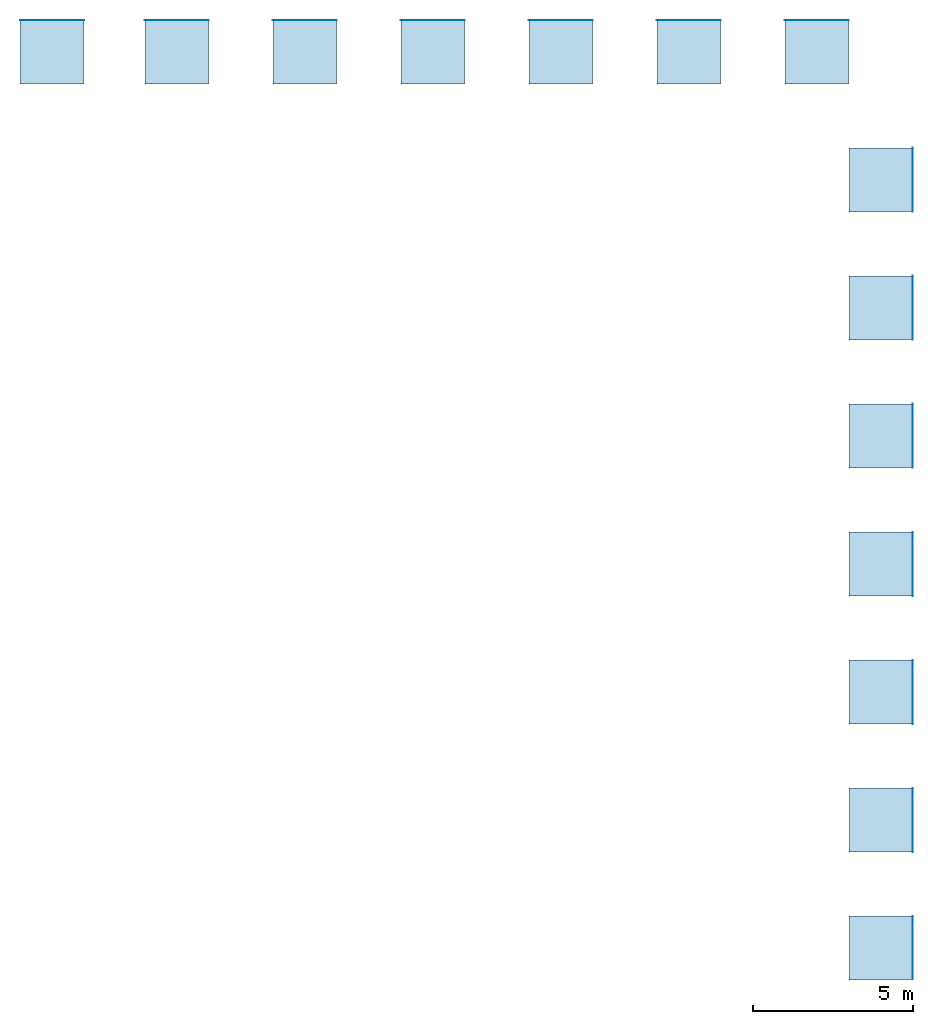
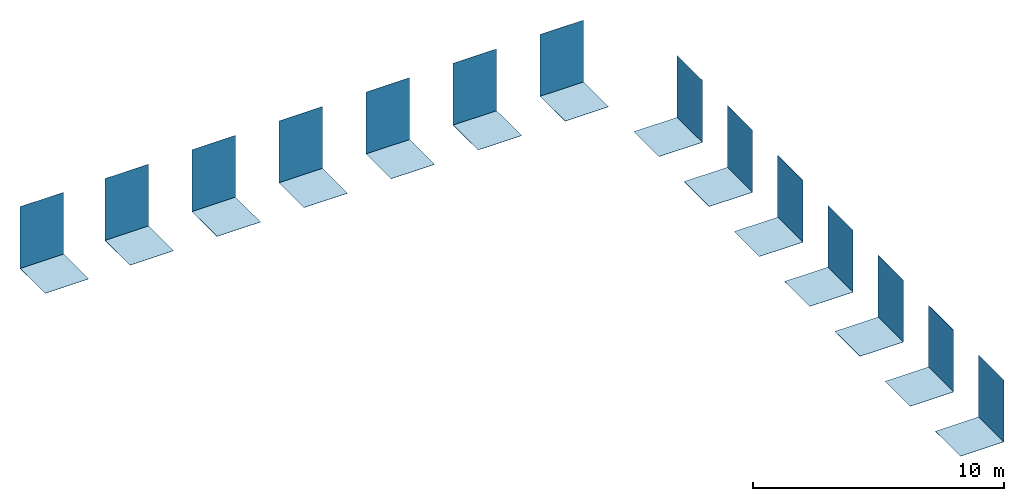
# One storey: 15 walls, 14 slabs.
"""IFC2X3 building model written with IfcOpenShell, lengths in millimetres."""

from ifc_helpers import new_model, entity, si_unit, converted_unit, derived_unit, direction, frame, frame_2d, origin, origin_2d_with_axis, place, context, subcontext, project, spatial, rectangle, extrude, material, layer, layer_set, layer_usage, type_object, element, save


model = new_model("IFC2X3")

# Units and contexts
model_context = context("Model", 3, precision=0.01, world=origin(), true_north=direction((6.12303176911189e-17, 1.0)))
body_context = subcontext(model_context, "Body", "Model", "MODEL_VIEW")
ifc_project = project(units=[si_unit("LENGTHUNIT", "METRE", prefix="MILLI"), si_unit("AREAUNIT", "SQUARE_METRE"), si_unit("VOLUMEUNIT", "CUBIC_METRE"), converted_unit("PLANEANGLEUNIT", "DEGREE", entity("IfcRatioMeasure", 0.0174532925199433), si_unit("PLANEANGLEUNIT", "RADIAN"), dimensions=[0, 0, 0, 0, 0, 0, 0]), si_unit("MASSUNIT", "GRAM", prefix="KILO"), derived_unit("MASSDENSITYUNIT", [(si_unit("MASSUNIT", "GRAM", prefix="KILO"), 1), (si_unit("LENGTHUNIT", "METRE"), -3)]), si_unit("TIMEUNIT", "SECOND"), si_unit("FREQUENCYUNIT", "HERTZ"), si_unit("THERMODYNAMICTEMPERATUREUNIT", "DEGREE_CELSIUS"), derived_unit("THERMALTRANSMITTANCEUNIT", [(si_unit("MASSUNIT", "GRAM", prefix="KILO"), 1), (si_unit("THERMODYNAMICTEMPERATUREUNIT", "KELVIN"), -1), (si_unit("TIMEUNIT", "SECOND"), -3)]), derived_unit("VOLUMETRICFLOWRATEUNIT", [(si_unit("LENGTHUNIT", "METRE"), 3), (si_unit("TIMEUNIT", "SECOND"), -1)]), si_unit("ELECTRICCURRENTUNIT", "AMPERE"), si_unit("ELECTRICVOLTAGEUNIT", "VOLT"), si_unit("POWERUNIT", "WATT"), si_unit("FORCEUNIT", "NEWTON", prefix="KILO"), si_unit("ILLUMINANCEUNIT", "LUX"), si_unit("LUMINOUSFLUXUNIT", "LUMEN"), si_unit("LUMINOUSINTENSITYUNIT", "CANDELA"), derived_unit("USERDEFINED", [(si_unit("MASSUNIT", "GRAM", prefix="KILO"), -1), (si_unit("LENGTHUNIT", "METRE"), -2), (si_unit("TIMEUNIT", "SECOND"), 3), (si_unit("LUMINOUSFLUXUNIT", "LUMEN"), 1)]), derived_unit("LINEARVELOCITYUNIT", [(si_unit("LENGTHUNIT", "METRE"), 1), (si_unit("TIMEUNIT", "SECOND"), -1)]), si_unit("PRESSUREUNIT", "PASCAL"), derived_unit("USERDEFINED", [(si_unit("LENGTHUNIT", "METRE"), -2), (si_unit("MASSUNIT", "GRAM", prefix="KILO"), 1), (si_unit("TIMEUNIT", "SECOND"), -2)])], contexts=[model_context])

# Site, building, storey
site_placement = place(None, origin())
site = spatial("IfcSite", under=ifc_project, at=site_placement, Name="Default", CompositionType="ELEMENT")
building_placement = place(site_placement, origin())
building = spatial("IfcBuilding", under=site, at=building_placement, CompositionType="ELEMENT")
storey_placement = place(building_placement, origin())
storey = spatial("IfcBuildingStorey", under=building, at=storey_placement, Name="Level 1", CompositionType="ELEMENT", Elevation=0.0)

# Slabs
ifc_material_1 = material(Name="PGR_AnticColonial_WoodFibreBoards_Residence_Roble_Decape-193x1380mm-100176288")
ifc_layer_1 = layer(ifc_material_1, 8.0)
ifc_layer_set_1 = layer_set([ifc_layer_1], Name="Floor:PGR_AnticColonial_WoodFibreBoards_Residence_Roble_Decape-193x1380mm-100176288")
ifc_layer_usage_1 = layer_usage(ifc_layer_set_1, "AXIS3", "POSITIVE", 0.0)
slab_1_placement = place(storey_placement, origin())
element("IfcSlab", 1, at=slab_1_placement, inside=storey, material=ifc_layer_usage_1, Name="Floor:PGR_AnticColonial_WoodFibreBoards_Residence_Roble_Decape-193x1380mm-100176288", ObjectType="Floor:PGR_AnticColonial_WoodFibreBoards_Residence_Roble_Decape-193x1380mm-100176288", PredefinedType="FLOOR", context=body_context, shape_type="SweptSolid", body=[
    extrude(rectangle(XDim=2000.0, YDim=2000.0, at=frame_2d((2.8421709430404e-13, 1.13686837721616e-13), x_axis=(1.0, 0.0))), frame((2527.07742659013, -3501.98267476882, 0.0), z_axis=(0.0, 0.0, -1.0), x_axis=(0.0, 1.0, 0.0)), (0.0, 0.0, 1.0), 8.0),
])
ifc_material_2 = material(Name="PGR_AnticColonial_WoodFibreBoards_Residence_Arizona-193x1380mm-100201388")
ifc_layer_2 = layer(ifc_material_2, 8.0)
ifc_layer_set_2 = layer_set([ifc_layer_2], Name="Floor:PGR_AnticColonial_WoodFibreBoards_Residence_Arizona-193x1380mm-100201388")
ifc_layer_usage_2 = layer_usage(ifc_layer_set_2, "AXIS3", "POSITIVE", 0.0)
slab_2_placement = place(storey_placement, origin())
element("IfcSlab", 2, at=slab_2_placement, inside=storey, material=ifc_layer_usage_2, Name="Floor:PGR_AnticColonial_WoodFibreBoards_Residence_Arizona-193x1380mm-100201388", ObjectType="Floor:PGR_AnticColonial_WoodFibreBoards_Residence_Arizona-193x1380mm-100201388", PredefinedType="FLOOR", context=body_context, shape_type="SweptSolid", body=[
    extrude(rectangle(XDim=2000.0, YDim=2000.0, at=frame_2d((-1.13686837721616e-13, 1.13686837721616e-13), x_axis=(1.0, 0.0))), frame((2527.07742659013, 498.017325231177, 0.0), z_axis=(0.0, 0.0, -1.0), x_axis=(0.0, 1.0, 0.0)), (0.0, 0.0, 1.0), 8.0),
])
ifc_material_3 = material(Name="PGR_AnticColonial_WoodFibreBoards_Residence_Idaho-193x1380mm-100201389")
ifc_layer_3 = layer(ifc_material_3, 8.0)
ifc_layer_set_3 = layer_set([ifc_layer_3], Name="Floor:PGR_AnticColonial_WoodFibreBoards_Residence_Idaho-193x1380mm-100201389")
ifc_layer_usage_3 = layer_usage(ifc_layer_set_3, "AXIS3", "POSITIVE", 0.0)
slab_3_placement = place(storey_placement, origin())
element("IfcSlab", 3, at=slab_3_placement, inside=storey, material=ifc_layer_usage_3, Name="Floor:PGR_AnticColonial_WoodFibreBoards_Residence_Idaho-193x1380mm-100201389", ObjectType="Floor:PGR_AnticColonial_WoodFibreBoards_Residence_Idaho-193x1380mm-100201389", PredefinedType="FLOOR", context=body_context, shape_type="SweptSolid", body=[
    extrude(rectangle(XDim=2000.0, YDim=2000.0, at=frame_2d((-2.8421709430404e-13, 1.13686837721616e-13), x_axis=(1.0, 0.0))), frame((2527.07742659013, 4498.01732523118, 0.0), z_axis=(0.0, 0.0, -1.0), x_axis=(0.0, 1.0, 0.0)), (0.0, 0.0, 1.0), 8.0),
])
ifc_material_4 = material(Name="PGR_AnticColonial_WoodFibreBoards_Residence_Misuri-193x1380mm-100201397")
ifc_layer_4 = layer(ifc_material_4, 8.0)
ifc_layer_set_4 = layer_set([ifc_layer_4], Name="Floor:PGR_AnticColonial_WoodFibreBoards_Residence_Misuri-193x1380mm-100201397")
ifc_layer_usage_4 = layer_usage(ifc_layer_set_4, "AXIS3", "POSITIVE", 0.0)
slab_4_placement = place(storey_placement, origin())
element("IfcSlab", 4, at=slab_4_placement, inside=storey, material=ifc_layer_usage_4, Name="Floor:PGR_AnticColonial_WoodFibreBoards_Residence_Misuri-193x1380mm-100201397", ObjectType="Floor:PGR_AnticColonial_WoodFibreBoards_Residence_Misuri-193x1380mm-100201397", PredefinedType="FLOOR", context=body_context, shape_type="SweptSolid", body=[
    extrude(rectangle(XDim=2000.0, YDim=2000.0, at=frame_2d((5.6843418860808e-13, 1.13686837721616e-13), x_axis=(1.0, 0.0))), frame((2527.07742659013, 8498.01732523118, 0.0), z_axis=(0.0, 0.0, -1.0), x_axis=(0.0, 1.0, 0.0)), (0.0, 0.0, 1.0), 8.0),
])
ifc_material_5 = material(Name="PGR_AnticColonial_WoodFibreBoards_Residence_Nogal-193x1380mm-100202966")
ifc_layer_5 = layer(ifc_material_5, 8.0)
ifc_layer_set_5 = layer_set([ifc_layer_5], Name="Floor:PGR_AnticColonial_WoodFibreBoards_Residence_Nogal-193x1380mm-100202966")
ifc_layer_usage_5 = layer_usage(ifc_layer_set_5, "AXIS3", "POSITIVE", 0.0)
slab_5_placement = place(storey_placement, origin())
element("IfcSlab", 5, at=slab_5_placement, inside=storey, material=ifc_layer_usage_5, Name="Floor:PGR_AnticColonial_WoodFibreBoards_Residence_Nogal-193x1380mm-100202966", ObjectType="Floor:PGR_AnticColonial_WoodFibreBoards_Residence_Nogal-193x1380mm-100202966", PredefinedType="FLOOR", context=body_context, shape_type="SweptSolid", body=[
    extrude(rectangle(XDim=2000.0, YDim=2000.0, at=frame_2d((0.0, 1.13686837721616e-13), x_axis=(1.0, 0.0))), frame((2527.07742659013, 12498.0173252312, 0.0), z_axis=(0.0, 0.0, -1.0), x_axis=(0.0, 1.0, 0.0)), (0.0, 0.0, 1.0), 8.0),
])
ifc_material_6 = material(Name="PGR_AnticColonial_WoodFibreBoards_Residence_Utah-193x1380mm-100201410")
ifc_layer_6 = layer(ifc_material_6, 8.0)
ifc_layer_set_6 = layer_set([ifc_layer_6], Name="Floor:PGR_AnticColonial_WoodFibreBoards_Residence_Utah-193x1380mm-100201410")
ifc_layer_usage_6 = layer_usage(ifc_layer_set_6, "AXIS3", "POSITIVE", 0.0)
slab_6_placement = place(storey_placement, origin())
element("IfcSlab", 6, at=slab_6_placement, inside=storey, material=ifc_layer_usage_6, Name="Floor:PGR_AnticColonial_WoodFibreBoards_Residence_Utah-193x1380mm-100201410", ObjectType="Floor:PGR_AnticColonial_WoodFibreBoards_Residence_Utah-193x1380mm-100201410", PredefinedType="FLOOR", context=body_context, shape_type="SweptSolid", body=[
    extrude(rectangle(XDim=2000.0, YDim=2000.0, at=frame_2d((0.0, 1.13686837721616e-13), x_axis=(1.0, 0.0))), frame((2527.07742659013, 16498.0173252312, 0.0), z_axis=(0.0, 0.0, -1.0), x_axis=(0.0, 1.0, 0.0)), (0.0, 0.0, 1.0), 8.0),
])
ifc_material_7 = material(Name="PGR_AnticColonial_WoodFibreBoards_Residence_New_Jersey-193x1380mm-100176290")
ifc_layer_7 = layer(ifc_material_7, 8.0)
ifc_layer_set_7 = layer_set([ifc_layer_7], Name="Floor:PGR_AnticColonial_WoodFibreBoards_Residence_New_Jersey-193x1380mm-100176290")
ifc_layer_usage_7 = layer_usage(ifc_layer_set_7, "AXIS3", "POSITIVE", 0.0)
slab_7_placement = place(storey_placement, origin())
element("IfcSlab", 7, at=slab_7_placement, inside=storey, material=ifc_layer_usage_7, Name="Floor:PGR_AnticColonial_WoodFibreBoards_Residence_New_Jersey-193x1380mm-100176290", ObjectType="Floor:PGR_AnticColonial_WoodFibreBoards_Residence_New_Jersey-193x1380mm-100176290", PredefinedType="FLOOR", context=body_context, shape_type="SweptSolid", body=[
    extrude(rectangle(XDim=2000.0, YDim=2000.0, at=frame_2d((-1.08002495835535e-12, 1.13686837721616e-13), x_axis=(1.0, 0.0))), frame((2527.07742659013, 20498.0173252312, 0.0), z_axis=(0.0, 0.0, -1.0), x_axis=(0.0, 1.0, 0.0)), (0.0, 0.0, 1.0), 8.0),
])
ifc_material_8 = material(Name="PGR_AnticColonial_WoodFibreBoards_Residence_Iowa-193x1380mm-100176300")
ifc_layer_8 = layer(ifc_material_8, 8.0)
ifc_layer_set_8 = layer_set([ifc_layer_8], Name="Floor:PGR_AnticColonial_WoodFibreBoards_Residence_Iowa-193x1380mm-100176300")
ifc_layer_usage_8 = layer_usage(ifc_layer_set_8, "AXIS3", "POSITIVE", 0.0)
slab_8_placement = place(storey_placement, origin())
element("IfcSlab", 8, at=slab_8_placement, inside=storey, material=ifc_layer_usage_8, Name="Floor:PGR_AnticColonial_WoodFibreBoards_Residence_Iowa-193x1380mm-100176300", ObjectType="Floor:PGR_AnticColonial_WoodFibreBoards_Residence_Iowa-193x1380mm-100176300", PredefinedType="FLOOR", context=body_context, shape_type="SweptSolid", body=[
    extrude(rectangle(XDim=2000.0, YDim=2000.00000000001, at=frame_2d((-2.1600499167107e-12, 0.0), x_axis=(1.0, 0.0))), frame((527.077426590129, 24498.0173252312, 0.0), z_axis=(0.0, 0.0, -1.0), x_axis=(0.0, 1.0, 0.0)), (0.0, 0.0, 1.0), 8.0),
])
ifc_material_9 = material(Name="PGR_AnticColonial_WoodFibreBoards_Residence_Roble-193x1380mm-100176291")
ifc_layer_9 = layer(ifc_material_9, 8.0)
ifc_layer_set_9 = layer_set([ifc_layer_9], Name="Floor:PGR_AnticColonial_WoodFibreBoards_Residence_Roble-193x1380mm-100176291")
ifc_layer_usage_9 = layer_usage(ifc_layer_set_9, "AXIS3", "POSITIVE", 0.0)
slab_9_placement = place(storey_placement, origin())
element("IfcSlab", 9, at=slab_9_placement, inside=storey, material=ifc_layer_usage_9, Name="Floor:PGR_AnticColonial_WoodFibreBoards_Residence_Roble-193x1380mm-100176291", ObjectType="Floor:PGR_AnticColonial_WoodFibreBoards_Residence_Roble-193x1380mm-100176291", PredefinedType="FLOOR", context=body_context, shape_type="SweptSolid", body=[
    extrude(rectangle(XDim=2000.0, YDim=2000.00000000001, at=frame_2d((-2.1600499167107e-12, 0.0), x_axis=(1.0, 0.0))), frame((-3472.92257340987, 24498.0173252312, 0.0), z_axis=(0.0, 0.0, -1.0), x_axis=(0.0, 1.0, 0.0)), (0.0, 0.0, 1.0), 8.0),
])
ifc_material_10 = material(Name="PGR_AnticColonial_WoodFibreBoards_Residence_Vermont-193x1380mm-100176289")
ifc_layer_10 = layer(ifc_material_10, 8.0)
ifc_layer_set_10 = layer_set([ifc_layer_10], Name="Floor:PGR_AnticColonial_WoodFibreBoards_Residence_Vermont-193x1380mm-100176289")
ifc_layer_usage_10 = layer_usage(ifc_layer_set_10, "AXIS3", "POSITIVE", 0.0)
slab_10_placement = place(storey_placement, origin())
element("IfcSlab", 10, at=slab_10_placement, inside=storey, material=ifc_layer_usage_10, Name="Floor:PGR_AnticColonial_WoodFibreBoards_Residence_Vermont-193x1380mm-100176289", ObjectType="Floor:PGR_AnticColonial_WoodFibreBoards_Residence_Vermont-193x1380mm-100176289", PredefinedType="FLOOR", context=body_context, shape_type="SweptSolid", body=[
    extrude(rectangle(XDim=2000.0, YDim=2000.00000000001, at=frame_2d((-2.1600499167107e-12, 0.0), x_axis=(1.0, 0.0))), frame((-7472.92257340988, 24498.0173252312, 0.0), z_axis=(0.0, 0.0, -1.0), x_axis=(0.0, 1.0, 0.0)), (0.0, 0.0, 1.0), 8.0),
])
ifc_material_11 = material(Name="PGR_AnticColonial_WoodFibreBoards_Residence_Virginia-193x1380mm-100175398")
ifc_layer_11 = layer(ifc_material_11, 8.0)
ifc_layer_set_11 = layer_set([ifc_layer_11], Name="Floor:PGR_AnticColonial_WoodFibreBoards_Residence_Virginia-193x1380mm-100175398")
ifc_layer_usage_11 = layer_usage(ifc_layer_set_11, "AXIS3", "POSITIVE", 0.0)
slab_11_placement = place(storey_placement, origin())
element("IfcSlab", 11, at=slab_11_placement, inside=storey, material=ifc_layer_usage_11, Name="Floor:PGR_AnticColonial_WoodFibreBoards_Residence_Virginia-193x1380mm-100175398", ObjectType="Floor:PGR_AnticColonial_WoodFibreBoards_Residence_Virginia-193x1380mm-100175398", PredefinedType="FLOOR", context=body_context, shape_type="SweptSolid", body=[
    extrude(rectangle(XDim=2000.0, YDim=2000.00000000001, at=origin_2d_with_axis()), frame((-11472.9225734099, 24498.0173252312, 0.0), z_axis=(0.0, 0.0, -1.0), x_axis=(0.0, 1.0, 0.0)), (0.0, 0.0, 1.0), 8.0),
])
ifc_material_12 = material(Name="PGR_AnticColonial_WoodFibreBoards_Residence_Ohio-193x1380mm-100175399")
ifc_layer_12 = layer(ifc_material_12, 8.0)
ifc_layer_set_12 = layer_set([ifc_layer_12], Name="Floor:PGR_AnticColonial_WoodFibreBoards_Residence_Ohio-193x1380mm-100175399")
ifc_layer_usage_12 = layer_usage(ifc_layer_set_12, "AXIS3", "POSITIVE", 0.0)
slab_12_placement = place(storey_placement, origin())
element("IfcSlab", 12, at=slab_12_placement, inside=storey, material=ifc_layer_usage_12, Name="Floor:PGR_AnticColonial_WoodFibreBoards_Residence_Ohio-193x1380mm-100175399", ObjectType="Floor:PGR_AnticColonial_WoodFibreBoards_Residence_Ohio-193x1380mm-100175399", PredefinedType="FLOOR", context=body_context, shape_type="SweptSolid", body=[
    extrude(rectangle(XDim=2000.0, YDim=2000.00000000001, at=frame_2d((2.1600499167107e-12, 0.0), x_axis=(1.0, 0.0))), frame((-15472.9225734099, 24498.0173252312, 0.0), z_axis=(0.0, 0.0, -1.0), x_axis=(0.0, 1.0, 0.0)), (0.0, 0.0, 1.0), 8.0),
])
ifc_material_13 = material(Name="PGR_AnticColonial_WoodFibreBoards_Residence_Nevada-193x1380mm-100201404")
ifc_layer_13 = layer(ifc_material_13, 8.0)
ifc_layer_set_13 = layer_set([ifc_layer_13], Name="Floor:PGR_AnticColonial_WoodFibreBoards_Residence_Nevada-193x1380mm-100201404")
ifc_layer_usage_13 = layer_usage(ifc_layer_set_13, "AXIS3", "POSITIVE", 0.0)
slab_13_placement = place(storey_placement, origin())
element("IfcSlab", 13, at=slab_13_placement, inside=storey, material=ifc_layer_usage_13, Name="Floor:PGR_AnticColonial_WoodFibreBoards_Residence_Nevada-193x1380mm-100201404", ObjectType="Floor:PGR_AnticColonial_WoodFibreBoards_Residence_Nevada-193x1380mm-100201404", PredefinedType="FLOOR", context=body_context, shape_type="SweptSolid", body=[
    extrude(rectangle(XDim=2000.0, YDim=2000.00000000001, at=frame_2d((2.1600499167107e-12, 0.0), x_axis=(1.0, 0.0))), frame((-19472.9225734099, 24498.0173252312, 0.0), z_axis=(0.0, 0.0, -1.0), x_axis=(0.0, 1.0, 0.0)), (0.0, 0.0, 1.0), 8.0),
])
ifc_material_14 = material(Name="PGR_AnticColonial_WoodFibreBoards_Residence_Maine-193x1380mm-100176301")
ifc_layer_14 = layer(ifc_material_14, 8.0)
ifc_layer_set_14 = layer_set([ifc_layer_14], Name="Floor:PGR_AnticColonial_WoodFibreBoards_Residence_Maine-193x1380mm-100176301")
ifc_layer_usage_14 = layer_usage(ifc_layer_set_14, "AXIS3", "POSITIVE", 0.0)
slab_14_placement = place(storey_placement, origin())
element("IfcSlab", 14, at=slab_14_placement, inside=storey, material=ifc_layer_usage_14, Name="Floor:PGR_AnticColonial_WoodFibreBoards_Residence_Maine-193x1380mm-100176301", ObjectType="Floor:PGR_AnticColonial_WoodFibreBoards_Residence_Maine-193x1380mm-100176301", PredefinedType="FLOOR", context=body_context, shape_type="SweptSolid", body=[
    extrude(rectangle(XDim=2000.0, YDim=2000.00000000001, at=frame_2d((2.1600499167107e-12, -2.1600499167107e-12), x_axis=(1.0, 0.0))), frame((-23372.9225734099, 24498.0173252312, 0.0), z_axis=(0.0, 0.0, -1.0), x_axis=(0.0, 1.0, 0.0)), (0.0, 0.0, 1.0), 8.0),
])

# Walls
ifc_layer_15 = layer(ifc_material_1, 8.0)
ifc_layer_set_15 = layer_set([ifc_layer_15], Name="Basic Wall:PGR_AnticColonial_WoodFibreBoards_Residence_Roble_Decape-193x1380mm-100176288")
ifc_layer_usage_15 = layer_usage(ifc_layer_set_15, "AXIS2", "POSITIVE", -4.0)
wall_type_1 = type_object("IfcWallType", Name="Basic Wall:PGR_AnticColonial_WoodFibreBoards_Residence_Roble_Decape-193x1380mm-100176288", PredefinedType="STANDARD", material=ifc_layer_set_15)
wall_1_placement = place(storey_placement, frame((3523.07742659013, -2501.98267476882, 0.0), z_axis=(0.0, 0.0, 1.0), x_axis=(0.0, -1.0, 0.0)))
element("IfcWallStandardCase", 15, at=wall_1_placement, inside=storey, type_object=wall_type_1, material=ifc_layer_usage_15, Name="Basic Wall:PGR_AnticColonial_WoodFibreBoards_Residence_Roble_Decape-193x1380mm-100176288", ObjectType="Basic Wall:PGR_AnticColonial_WoodFibreBoards_Residence_Roble_Decape-193x1380mm-100176288", context=body_context, shape_type="SweptSolid", body=[
    extrude(rectangle(XDim=2000.0, YDim=8.00000000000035, at=frame_2d((1000.0, 7.99360577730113e-15), x_axis=(-1.0, 0.0))), origin(), (0.0, 0.0, 1.0), 3000.00000000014),
])
ifc_layer_16 = layer(ifc_material_2, 8.0)
ifc_layer_set_16 = layer_set([ifc_layer_16], Name="Basic Wall:PGR_AnticColonial_WoodFibreBoards_Residence_Arizona-193x1380mm-100201388")
ifc_layer_usage_16 = layer_usage(ifc_layer_set_16, "AXIS2", "POSITIVE", -4.0)
wall_type_2 = type_object("IfcWallType", Name="Basic Wall:PGR_AnticColonial_WoodFibreBoards_Residence_Arizona-193x1380mm-100201388", PredefinedType="STANDARD", material=ifc_layer_set_16)
wall_2_placement = place(storey_placement, frame((3523.07742659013, 1498.01732523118, 0.0), z_axis=(0.0, 0.0, 1.0), x_axis=(0.0, -1.0, 0.0)))
element("IfcWallStandardCase", 16, at=wall_2_placement, inside=storey, type_object=wall_type_2, material=ifc_layer_usage_16, Name="Basic Wall:PGR_AnticColonial_WoodFibreBoards_Residence_Arizona-193x1380mm-100201388", ObjectType="Basic Wall:PGR_AnticColonial_WoodFibreBoards_Residence_Arizona-193x1380mm-100201388", context=body_context, shape_type="SweptSolid", body=[
    extrude(rectangle(XDim=2000.0, YDim=8.00000000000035, at=frame_2d((1000.0, 7.99360577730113e-15), x_axis=(-1.0, 0.0))), origin(), (0.0, 0.0, 1.0), 3000.00000000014),
])
ifc_layer_17 = layer(ifc_material_3, 8.0)
ifc_layer_set_17 = layer_set([ifc_layer_17], Name="Basic Wall:PGR_AnticColonial_WoodFibreBoards_Residence_Idaho-193x1380mm-100201389")
ifc_layer_usage_17 = layer_usage(ifc_layer_set_17, "AXIS2", "POSITIVE", -4.0)
wall_type_3 = type_object("IfcWallType", Name="Basic Wall:PGR_AnticColonial_WoodFibreBoards_Residence_Idaho-193x1380mm-100201389", PredefinedType="STANDARD", material=ifc_layer_set_17)
wall_3_placement = place(storey_placement, frame((3523.07742659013, 5498.01732523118, 0.0), z_axis=(0.0, 0.0, 1.0), x_axis=(0.0, -1.0, 0.0)))
element("IfcWallStandardCase", 17, at=wall_3_placement, inside=storey, type_object=wall_type_3, material=ifc_layer_usage_17, Name="Basic Wall:PGR_AnticColonial_WoodFibreBoards_Residence_Idaho-193x1380mm-100201389", ObjectType="Basic Wall:PGR_AnticColonial_WoodFibreBoards_Residence_Idaho-193x1380mm-100201389", context=body_context, shape_type="SweptSolid", body=[
    extrude(rectangle(XDim=2000.0, YDim=8.00000000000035, at=frame_2d((1000.0, 7.99360577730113e-15), x_axis=(-1.0, 0.0))), origin(), (0.0, 0.0, 1.0), 3000.00000000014),
])
ifc_layer_18 = layer(ifc_material_4, 8.0)
ifc_layer_set_18 = layer_set([ifc_layer_18], Name="Basic Wall:PGR_AnticColonial_WoodFibreBoards_Residence_Misuri-193x1380mm-100201397")
ifc_layer_usage_18 = layer_usage(ifc_layer_set_18, "AXIS2", "POSITIVE", -4.0)
wall_type_4 = type_object("IfcWallType", Name="Basic Wall:PGR_AnticColonial_WoodFibreBoards_Residence_Misuri-193x1380mm-100201397", PredefinedType="STANDARD", material=ifc_layer_set_18)
wall_4_placement = place(storey_placement, frame((3523.07742659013, 9498.01732523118, 0.0), z_axis=(0.0, 0.0, 1.0), x_axis=(0.0, -1.0, 0.0)))
element("IfcWallStandardCase", 18, at=wall_4_placement, inside=storey, type_object=wall_type_4, material=ifc_layer_usage_18, Name="Basic Wall:PGR_AnticColonial_WoodFibreBoards_Residence_Misuri-193x1380mm-100201397", ObjectType="Basic Wall:PGR_AnticColonial_WoodFibreBoards_Residence_Misuri-193x1380mm-100201397", context=body_context, shape_type="SweptSolid", body=[
    extrude(rectangle(XDim=2000.0, YDim=8.00000000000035, at=frame_2d((1000.0, 7.99360577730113e-15), x_axis=(-1.0, 0.0))), origin(), (0.0, 0.0, 1.0), 3000.00000000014),
])
ifc_layer_usage_19 = layer_usage(ifc_layer_set_18, "AXIS2", "POSITIVE", -4.0)
wall_5_placement = place(storey_placement, frame((3523.07742659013, 9498.01732523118, 0.0), z_axis=(0.0, 0.0, 1.0), x_axis=(0.0, -1.0, 0.0)))
element("IfcWallStandardCase", 19, at=wall_5_placement, inside=storey, type_object=wall_type_4, material=ifc_layer_usage_19, Name="Basic Wall:PGR_AnticColonial_WoodFibreBoards_Residence_Misuri-193x1380mm-100201397", ObjectType="Basic Wall:PGR_AnticColonial_WoodFibreBoards_Residence_Misuri-193x1380mm-100201397", context=body_context, shape_type="SweptSolid", body=[
    extrude(rectangle(XDim=2000.0, YDim=8.00000000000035, at=frame_2d((1000.0, 7.99360577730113e-15), x_axis=(-1.0, 0.0))), origin(), (0.0, 0.0, 1.0), 3000.00000000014),
])
ifc_layer_19 = layer(ifc_material_5, 8.0)
ifc_layer_set_19 = layer_set([ifc_layer_19], Name="Basic Wall:PGR_AnticColonial_WoodFibreBoards_Residence_Nogal-193x1380mm-100202966")
ifc_layer_usage_20 = layer_usage(ifc_layer_set_19, "AXIS2", "POSITIVE", -4.0)
wall_type_5 = type_object("IfcWallType", Name="Basic Wall:PGR_AnticColonial_WoodFibreBoards_Residence_Nogal-193x1380mm-100202966", PredefinedType="STANDARD", material=ifc_layer_set_19)
wall_6_placement = place(storey_placement, frame((3523.07742659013, 13498.0173252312, 0.0), z_axis=(0.0, 0.0, 1.0), x_axis=(0.0, -1.0, 0.0)))
element("IfcWallStandardCase", 20, at=wall_6_placement, inside=storey, type_object=wall_type_5, material=ifc_layer_usage_20, Name="Basic Wall:PGR_AnticColonial_WoodFibreBoards_Residence_Nogal-193x1380mm-100202966", ObjectType="Basic Wall:PGR_AnticColonial_WoodFibreBoards_Residence_Nogal-193x1380mm-100202966", context=body_context, shape_type="SweptSolid", body=[
    extrude(rectangle(XDim=2000.0, YDim=8.00000000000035, at=frame_2d((1000.0, 7.99360577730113e-15), x_axis=(-1.0, 0.0))), origin(), (0.0, 0.0, 1.0), 3000.00000000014),
])
ifc_layer_20 = layer(ifc_material_6, 8.0)
ifc_layer_set_20 = layer_set([ifc_layer_20], Name="Basic Wall:PGR_AnticColonial_WoodFibreBoards_Residence_Utah-193x1380mm-100201410")
ifc_layer_usage_21 = layer_usage(ifc_layer_set_20, "AXIS2", "POSITIVE", -4.0)
wall_type_6 = type_object("IfcWallType", Name="Basic Wall:PGR_AnticColonial_WoodFibreBoards_Residence_Utah-193x1380mm-100201410", PredefinedType="STANDARD", material=ifc_layer_set_20)
wall_7_placement = place(storey_placement, frame((3523.07742659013, 17498.0173252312, 0.0), z_axis=(0.0, 0.0, 1.0), x_axis=(0.0, -1.0, 0.0)))
element("IfcWallStandardCase", 21, at=wall_7_placement, inside=storey, type_object=wall_type_6, material=ifc_layer_usage_21, Name="Basic Wall:PGR_AnticColonial_WoodFibreBoards_Residence_Utah-193x1380mm-100201410", ObjectType="Basic Wall:PGR_AnticColonial_WoodFibreBoards_Residence_Utah-193x1380mm-100201410", context=body_context, shape_type="SweptSolid", body=[
    extrude(rectangle(XDim=2000.0, YDim=8.00000000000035, at=frame_2d((1000.0, 7.99360577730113e-15), x_axis=(-1.0, 0.0))), origin(), (0.0, 0.0, 1.0), 3000.00000000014),
])
ifc_layer_21 = layer(ifc_material_7, 8.0)
ifc_layer_set_21 = layer_set([ifc_layer_21], Name="Basic Wall:PGR_AnticColonial_WoodFibreBoards_Residence_New_Jersey-193x1380mm-100176290")
ifc_layer_usage_22 = layer_usage(ifc_layer_set_21, "AXIS2", "POSITIVE", -4.0)
wall_type_7 = type_object("IfcWallType", Name="Basic Wall:PGR_AnticColonial_WoodFibreBoards_Residence_New_Jersey-193x1380mm-100176290", PredefinedType="STANDARD", material=ifc_layer_set_21)
wall_8_placement = place(storey_placement, frame((3523.07742659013, 21498.0173252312, 0.0), z_axis=(0.0, 0.0, 1.0), x_axis=(0.0, -1.0, 0.0)))
element("IfcWallStandardCase", 22, at=wall_8_placement, inside=storey, type_object=wall_type_7, material=ifc_layer_usage_22, Name="Basic Wall:PGR_AnticColonial_WoodFibreBoards_Residence_New_Jersey-193x1380mm-100176290", ObjectType="Basic Wall:PGR_AnticColonial_WoodFibreBoards_Residence_New_Jersey-193x1380mm-100176290", context=body_context, shape_type="SweptSolid", body=[
    extrude(rectangle(XDim=2000.0, YDim=8.00000000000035, at=frame_2d((1000.0, 7.99360577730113e-15), x_axis=(-1.0, 0.0))), origin(), (0.0, 0.0, 1.0), 3000.00000000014),
])
ifc_layer_22 = layer(ifc_material_8, 8.0)
ifc_layer_set_22 = layer_set([ifc_layer_22], Name="Basic Wall:PGR_AnticColonial_WoodFibreBoards_Residence_Iowa-193x1380mm-100176300")
ifc_layer_usage_23 = layer_usage(ifc_layer_set_22, "AXIS2", "POSITIVE", -4.0)
wall_type_8 = type_object("IfcWallType", Name="Basic Wall:PGR_AnticColonial_WoodFibreBoards_Residence_Iowa-193x1380mm-100176300", PredefinedType="STANDARD", material=ifc_layer_set_22)
wall_9_placement = place(storey_placement, frame((-472.922573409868, 25494.0173252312, 0.0)))
element("IfcWallStandardCase", 23, at=wall_9_placement, inside=storey, type_object=wall_type_8, material=ifc_layer_usage_23, Name="Basic Wall:PGR_AnticColonial_WoodFibreBoards_Residence_Iowa-193x1380mm-100176300", ObjectType="Basic Wall:PGR_AnticColonial_WoodFibreBoards_Residence_Iowa-193x1380mm-100176300", context=body_context, shape_type="SweptSolid", body=[
    extrude(rectangle(XDim=2000.0, YDim=7.99999999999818, at=frame_2d((1000.0, 1.0831335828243e-12), x_axis=(-1.0, 0.0))), origin(), (0.0, 0.0, 1.0), 3000.00000000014),
])
ifc_layer_23 = layer(ifc_material_9, 8.0)
ifc_layer_set_23 = layer_set([ifc_layer_23], Name="Basic Wall:PGR_AnticColonial_WoodFibreBoards_Residence_Roble-193x1380mm-100176291")
ifc_layer_usage_24 = layer_usage(ifc_layer_set_23, "AXIS2", "POSITIVE", -4.0)
wall_type_9 = type_object("IfcWallType", Name="Basic Wall:PGR_AnticColonial_WoodFibreBoards_Residence_Roble-193x1380mm-100176291", PredefinedType="STANDARD", material=ifc_layer_set_23)
wall_10_placement = place(storey_placement, frame((-4472.92257340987, 25494.0173252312, 0.0)))
element("IfcWallStandardCase", 24, at=wall_10_placement, inside=storey, type_object=wall_type_9, material=ifc_layer_usage_24, Name="Basic Wall:PGR_AnticColonial_WoodFibreBoards_Residence_Roble-193x1380mm-100176291", ObjectType="Basic Wall:PGR_AnticColonial_WoodFibreBoards_Residence_Roble-193x1380mm-100176291", context=body_context, shape_type="SweptSolid", body=[
    extrude(rectangle(XDim=2000.0, YDim=7.99999999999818, at=frame_2d((1000.0, 1.0831335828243e-12), x_axis=(-1.0, 0.0))), origin(), (0.0, 0.0, 1.0), 3000.00000000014),
])
ifc_layer_24 = layer(ifc_material_10, 8.0)
ifc_layer_set_24 = layer_set([ifc_layer_24], Name="Basic Wall:PGR_AnticColonial_WoodFibreBoards_Residence_Vermont-193x1380mm-100176289")
ifc_layer_usage_25 = layer_usage(ifc_layer_set_24, "AXIS2", "POSITIVE", -4.0)
wall_type_10 = type_object("IfcWallType", Name="Basic Wall:PGR_AnticColonial_WoodFibreBoards_Residence_Vermont-193x1380mm-100176289", PredefinedType="STANDARD", material=ifc_layer_set_24)
wall_11_placement = place(storey_placement, frame((-8472.92257340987, 25494.0173252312, 0.0)))
element("IfcWallStandardCase", 25, at=wall_11_placement, inside=storey, type_object=wall_type_10, material=ifc_layer_usage_25, Name="Basic Wall:PGR_AnticColonial_WoodFibreBoards_Residence_Vermont-193x1380mm-100176289", ObjectType="Basic Wall:PGR_AnticColonial_WoodFibreBoards_Residence_Vermont-193x1380mm-100176289", context=body_context, shape_type="SweptSolid", body=[
    extrude(rectangle(XDim=2000.0, YDim=7.99999999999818, at=frame_2d((1000.0, 1.0831335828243e-12), x_axis=(-1.0, 0.0))), origin(), (0.0, 0.0, 1.0), 3000.00000000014),
])
ifc_layer_25 = layer(ifc_material_11, 8.0)
ifc_layer_set_25 = layer_set([ifc_layer_25], Name="Basic Wall:PGR_AnticColonial_WoodFibreBoards_Residence_Virginia-193x1380mm-100175398")
ifc_layer_usage_26 = layer_usage(ifc_layer_set_25, "AXIS2", "POSITIVE", -4.0)
wall_type_11 = type_object("IfcWallType", Name="Basic Wall:PGR_AnticColonial_WoodFibreBoards_Residence_Virginia-193x1380mm-100175398", PredefinedType="STANDARD", material=ifc_layer_set_25)
wall_12_placement = place(storey_placement, frame((-12472.9225734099, 25494.0173252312, 0.0)))
element("IfcWallStandardCase", 26, at=wall_12_placement, inside=storey, type_object=wall_type_11, material=ifc_layer_usage_26, Name="Basic Wall:PGR_AnticColonial_WoodFibreBoards_Residence_Virginia-193x1380mm-100175398", ObjectType="Basic Wall:PGR_AnticColonial_WoodFibreBoards_Residence_Virginia-193x1380mm-100175398", context=body_context, shape_type="SweptSolid", body=[
    extrude(rectangle(XDim=2000.0, YDim=7.99999999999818, at=frame_2d((1000.0, 1.0831335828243e-12), x_axis=(-1.0, 0.0))), origin(), (0.0, 0.0, 1.0), 3000.00000000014),
])
ifc_layer_26 = layer(ifc_material_12, 8.0)
ifc_layer_set_26 = layer_set([ifc_layer_26], Name="Basic Wall:PGR_AnticColonial_WoodFibreBoards_Residence_Ohio-193x1380mm-100175399")
ifc_layer_usage_27 = layer_usage(ifc_layer_set_26, "AXIS2", "POSITIVE", -4.0)
wall_type_12 = type_object("IfcWallType", Name="Basic Wall:PGR_AnticColonial_WoodFibreBoards_Residence_Ohio-193x1380mm-100175399", PredefinedType="STANDARD", material=ifc_layer_set_26)
wall_13_placement = place(storey_placement, frame((-16472.9225734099, 25494.0173252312, 0.0)))
element("IfcWallStandardCase", 27, at=wall_13_placement, inside=storey, type_object=wall_type_12, material=ifc_layer_usage_27, Name="Basic Wall:PGR_AnticColonial_WoodFibreBoards_Residence_Ohio-193x1380mm-100175399", ObjectType="Basic Wall:PGR_AnticColonial_WoodFibreBoards_Residence_Ohio-193x1380mm-100175399", context=body_context, shape_type="SweptSolid", body=[
    extrude(rectangle(XDim=2000.0, YDim=7.99999999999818, at=frame_2d((1000.0, 1.0831335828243e-12), x_axis=(-1.0, 0.0))), origin(), (0.0, 0.0, 1.0), 3000.00000000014),
])
ifc_layer_27 = layer(ifc_material_13, 8.0)
ifc_layer_set_27 = layer_set([ifc_layer_27], Name="Basic Wall:PGR_AnticColonial_WoodFibreBoards_Residence_Nevada-193x1380mm-100201404")
ifc_layer_usage_28 = layer_usage(ifc_layer_set_27, "AXIS2", "POSITIVE", -4.0)
wall_type_13 = type_object("IfcWallType", Name="Basic Wall:PGR_AnticColonial_WoodFibreBoards_Residence_Nevada-193x1380mm-100201404", PredefinedType="STANDARD", material=ifc_layer_set_27)
wall_14_placement = place(storey_placement, frame((-20472.9225734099, 25494.0173252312, 0.0)))
element("IfcWallStandardCase", 28, at=wall_14_placement, inside=storey, type_object=wall_type_13, material=ifc_layer_usage_28, Name="Basic Wall:PGR_AnticColonial_WoodFibreBoards_Residence_Nevada-193x1380mm-100201404", ObjectType="Basic Wall:PGR_AnticColonial_WoodFibreBoards_Residence_Nevada-193x1380mm-100201404", context=body_context, shape_type="SweptSolid", body=[
    extrude(rectangle(XDim=2000.0, YDim=7.99999999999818, at=frame_2d((1000.0, 1.0831335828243e-12), x_axis=(-1.0, 0.0))), origin(), (0.0, 0.0, 1.0), 3000.00000000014),
])
ifc_layer_28 = layer(ifc_material_14, 8.0)
ifc_layer_set_28 = layer_set([ifc_layer_28], Name="Basic Wall:PGR_AnticColonial_WoodFibreBoards_Residence_Maine-193x1380mm-100176301")
ifc_layer_usage_29 = layer_usage(ifc_layer_set_28, "AXIS2", "POSITIVE", -4.0)
wall_type_14 = type_object("IfcWallType", Name="Basic Wall:PGR_AnticColonial_WoodFibreBoards_Residence_Maine-193x1380mm-100176301", PredefinedType="STANDARD", material=ifc_layer_set_28)
wall_15_placement = place(storey_placement, frame((-24372.9225734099, 25494.0173252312, 0.0)))
element("IfcWallStandardCase", 29, at=wall_15_placement, inside=storey, type_object=wall_type_14, material=ifc_layer_usage_29, Name="Basic Wall:PGR_AnticColonial_WoodFibreBoards_Residence_Maine-193x1380mm-100176301", ObjectType="Basic Wall:PGR_AnticColonial_WoodFibreBoards_Residence_Maine-193x1380mm-100176301", context=body_context, shape_type="SweptSolid", body=[
    extrude(rectangle(XDim=2000.0, YDim=7.99999999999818, at=frame_2d((1000.0, 1.0831335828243e-12), x_axis=(-1.0, 0.0))), origin(), (0.0, 0.0, 1.0), 3000.00000000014),
])

save(model, "model.ifc")
